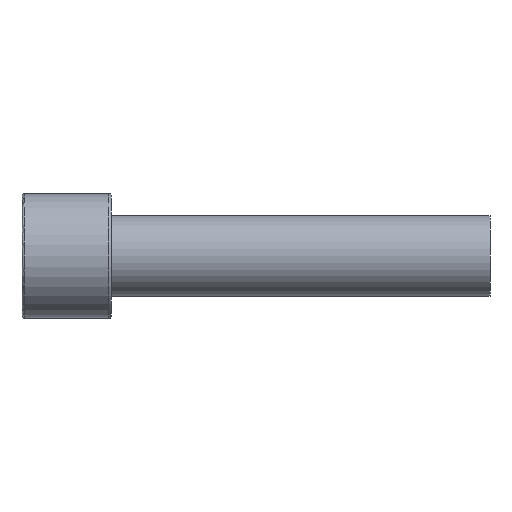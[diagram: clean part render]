
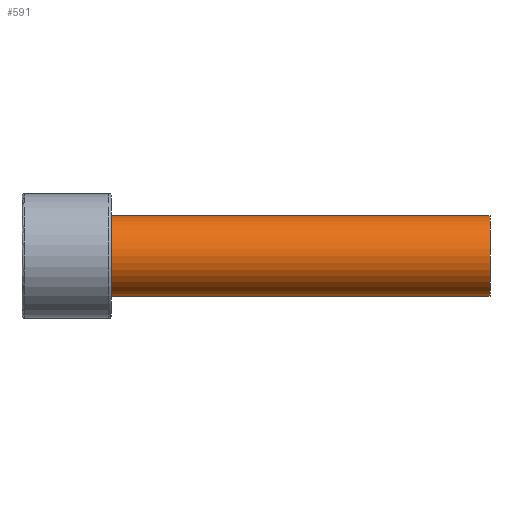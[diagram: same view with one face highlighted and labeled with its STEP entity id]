
A CAD part, front view. The second image highlights one B-rep face of the part: STEP entity #591.
In plain terms, the highlighted cylindrical face has radius 9 mm (diameter 18 mm), a partial arc.
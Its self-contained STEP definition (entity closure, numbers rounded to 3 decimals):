
#425=CARTESIAN_POINT('Vertex',(105.,0.,9.)) ;
#428=CARTESIAN_POINT('Axis2P3D Location',(105.,0.,0.)) ;
#432=CARTESIAN_POINT('Vertex',(105.,-9.,0.)) ;
#435=CARTESIAN_POINT('Axis2P3D Location',(105.,0.,0.)) ;
#439=CARTESIAN_POINT('Vertex',(105.,0.,-9.)) ;
#531=CARTESIAN_POINT('Line Origine',(105.,0.,9.)) ;
#535=CARTESIAN_POINT('Vertex',(20.,0.,9.)) ;
#538=CARTESIAN_POINT('Line Origine',(105.,0.,-9.)) ;
#542=CARTESIAN_POINT('Vertex',(20.,0.,-9.)) ;
#566=CARTESIAN_POINT('Axis2P3D Location',(105.,0.,0.)) ;
#571=CARTESIAN_POINT('Axis2P3D Location',(20.,0.,0.)) ;
#575=CARTESIAN_POINT('Vertex',(20.,-9.,0.)) ;
#578=CARTESIAN_POINT('Axis2P3D Location',(20.,0.,0.)) ;
#429=DIRECTION('Axis2P3D Direction',(1.,0.,-0.)) ;
#436=DIRECTION('Axis2P3D Direction',(1.,0.,-0.)) ;
#532=DIRECTION('Vector Direction',(-1.,0.,0.)) ;
#539=DIRECTION('Vector Direction',(-1.,0.,0.)) ;
#567=DIRECTION('Axis2P3D Direction',(-1.,-0.,-0.)) ;
#568=DIRECTION('Axis2P3D XDirection',(0.,0.,-1.)) ;
#572=DIRECTION('Axis2P3D Direction',(-1.,-0.,-0.)) ;
#579=DIRECTION('Axis2P3D Direction',(-1.,-0.,-0.)) ;
#430=AXIS2_PLACEMENT_3D('Circle Axis2P3D',#428,#429,$) ;
#437=AXIS2_PLACEMENT_3D('Circle Axis2P3D',#435,#436,$) ;
#569=AXIS2_PLACEMENT_3D('Cylinder Axis2P3D',#566,#567,#568) ;
#573=AXIS2_PLACEMENT_3D('Circle Axis2P3D',#571,#572,$) ;
#580=AXIS2_PLACEMENT_3D('Circle Axis2P3D',#578,#579,$) ;
#584=ORIENTED_EDGE('',*,*,#544,.T.) ;
#585=ORIENTED_EDGE('',*,*,#441,.F.) ;
#586=ORIENTED_EDGE('',*,*,#434,.F.) ;
#587=ORIENTED_EDGE('',*,*,#537,.T.) ;
#588=ORIENTED_EDGE('',*,*,#577,.T.) ;
#589=ORIENTED_EDGE('',*,*,#582,.T.) ;
#533=VECTOR('Line Direction',#532,1.) ;
#540=VECTOR('Line Direction',#539,1.) ;
#591=ADVANCED_FACE('367-18X105',(#590),#570,.T.) ;
#431=CIRCLE('generated circle',#430,9.) ;
#438=CIRCLE('generated circle',#437,9.) ;
#574=CIRCLE('generated circle',#573,9.) ;
#581=CIRCLE('generated circle',#580,9.) ;
#570=CYLINDRICAL_SURFACE('generated cylinder',#569,9.) ;
#434=EDGE_CURVE('',#426,#433,#431,.T.) ;
#441=EDGE_CURVE('',#433,#440,#438,.T.) ;
#537=EDGE_CURVE('',#426,#536,#534,.T.) ;
#544=EDGE_CURVE('',#543,#440,#541,.F.) ;
#577=EDGE_CURVE('',#536,#576,#574,.F.) ;
#582=EDGE_CURVE('',#576,#543,#581,.F.) ;
#583=EDGE_LOOP('',(#584,#585,#586,#587,#588,#589)) ;
#590=FACE_OUTER_BOUND('',#583,.T.) ;
#534=LINE('Line',#531,#533) ;
#541=LINE('Line',#538,#540) ;
#426=VERTEX_POINT('',#425) ;
#433=VERTEX_POINT('',#432) ;
#440=VERTEX_POINT('',#439) ;
#536=VERTEX_POINT('',#535) ;
#543=VERTEX_POINT('',#542) ;
#576=VERTEX_POINT('',#575) ;
